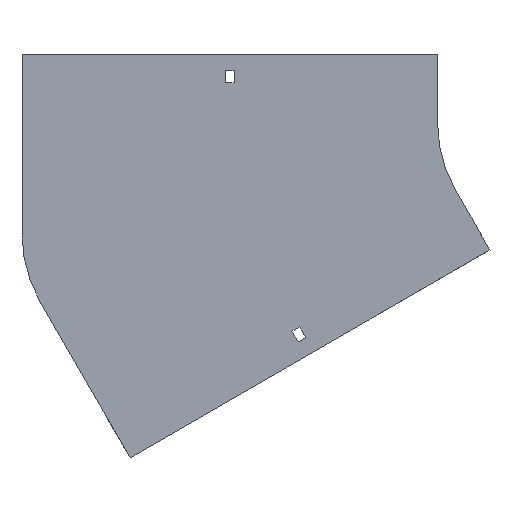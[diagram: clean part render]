
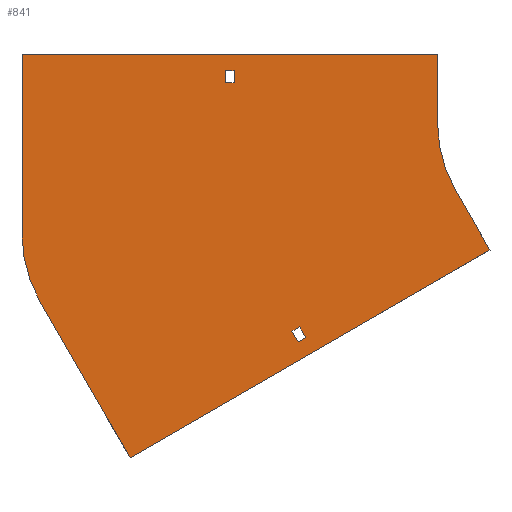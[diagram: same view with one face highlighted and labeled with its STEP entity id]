
A CAD part, front view. The second image highlights one B-rep face of the part: STEP entity #841.
In plain terms, the highlighted planar face has unit normal (0, -1, 0).
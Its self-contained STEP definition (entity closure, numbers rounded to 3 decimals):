
#8 = DIRECTION ( 'NONE',  ( 0., 1., 0. ) ) ;
#13 = DIRECTION ( 'NONE',  ( 0., 0., -1. ) ) ;
#57 = DIRECTION ( 'NONE',  ( 0., 0., -1. ) ) ;
#69 = VERTEX_POINT ( 'NONE', #1816 ) ;
#96 = VECTOR ( 'NONE', #1016, 1000. ) ;
#99 = VECTOR ( 'NONE', #1073, 1000. ) ;
#103 = DIRECTION ( 'NONE',  ( 0.866, 0., 0.5 ) ) ;
#123 = CARTESIAN_POINT ( 'NONE',  ( -255.25, 0., 38. ) ) ;
#131 = CARTESIAN_POINT ( 'NONE',  ( -206.553, 0., -152.74 ) ) ;
#139 = DIRECTION ( 'NONE',  ( -1., 0., 0. ) ) ;
#149 = CARTESIAN_POINT ( 'NONE',  ( -100., 0., 0. ) ) ;
#153 = AXIS2_PLACEMENT_3D ( 'NONE', #1357, #8, #602 ) ;
#165 = CARTESIAN_POINT ( 'NONE',  ( -404., 0., -81.457 ) ) ;
#197 = VERTEX_POINT ( 'NONE', #1261 ) ;
#230 = EDGE_CURVE ( 'NONE', #1905, #1359, #1630, .T. ) ;
#238 = EDGE_CURVE ( 'NONE', #1427, #1677, #1786, .T. ) ;
#245 = EDGE_CURVE ( 'NONE', #795, #1905, #1761, .T. ) ;
#259 = VECTOR ( 'NONE', #1651, 1000. ) ;
#262 = CARTESIAN_POINT ( 'NONE',  ( -248.75, 0., 38. ) ) ;
#273 = VERTEX_POINT ( 'NONE', #1466 ) ;
#303 = VERTEX_POINT ( 'NONE', #262 ) ;
#310 = VERTEX_POINT ( 'NONE', #123 ) ;
#316 = DIRECTION ( 'NONE',  ( -0.5, 0., 0.866 ) ) ;
#342 = VECTOR ( 'NONE', #386, 1000. ) ;
#352 = ORIENTED_EDGE ( 'NONE', *, *, #812, .T. ) ;
#360 = CARTESIAN_POINT ( 'NONE',  ( -61.603, 0., -93.301 ) ) ;
#366 = EDGE_CURVE ( 'NONE', #1569, #1427, #1798, .T. ) ;
#370 = ORIENTED_EDGE ( 'NONE', *, *, #1749, .F. ) ;
#386 = DIRECTION ( 'NONE',  ( 0., 0., -1. ) ) ;
#423 = ORIENTED_EDGE ( 'NONE', *, *, #836, .T. ) ;
#452 = CARTESIAN_POINT ( 'NONE',  ( -324.874, 0., -245.301 ) ) ;
#461 = CIRCLE ( 'NONE', #613, 100. ) ;
#475 = LINE ( 'NONE', #165, #99 ) ;
#499 = VERTEX_POINT ( 'NONE', #986 ) ;
#509 = EDGE_CURVE ( 'NONE', #303, #499, #1381, .T. ) ;
#514 = CARTESIAN_POINT ( 'NONE',  ( -206.553, 0., -152.74 ) ) ;
#531 = VERTEX_POINT ( 'NONE', #1102 ) ;
#539 = ORIENTED_EDGE ( 'NONE', *, *, #873, .F. ) ;
#555 = CARTESIAN_POINT ( 'NONE',  ( -100., 0., 50. ) ) ;
#561 = DIRECTION ( 'NONE',  ( 0., 0., -1. ) ) ;
#602 = DIRECTION ( 'NONE',  ( 0., 0., 1. ) ) ;
#613 = AXIS2_PLACEMENT_3D ( 'NONE', #697, #962, #57 ) ;
#617 = CARTESIAN_POINT ( 'NONE',  ( -202.053, 0., -160.534 ) ) ;
#618 = CARTESIAN_POINT ( 'NONE',  ( -255.25, 0., 29. ) ) ;
#626 = VECTOR ( 'NONE', #1049, 1000. ) ;
#666 = ORIENTED_EDGE ( 'NONE', *, *, #1457, .F. ) ;
#667 = LINE ( 'NONE', #1082, #1415 ) ;
#689 = CIRCLE ( 'NONE', #153, 100. ) ;
#697 = CARTESIAN_POINT ( 'NONE',  ( 0., 0., 0. ) ) ;
#719 = EDGE_CURVE ( 'NONE', #310, #303, #877, .T. ) ;
#746 = CARTESIAN_POINT ( 'NONE',  ( -86.603, 0., -50. ) ) ;
#778 = LINE ( 'NONE', #1219, #1927 ) ;
#795 = VERTEX_POINT ( 'NONE', #1520 ) ;
#810 = CARTESIAN_POINT ( 'NONE',  ( -200.924, 0., -149.49 ) ) ;
#812 = EDGE_CURVE ( 'NONE', #531, #310, #1376, .T. ) ;
#813 = VECTOR ( 'NONE', #1919, 1000. ) ;
#819 = VECTOR ( 'NONE', #1501, 1000. ) ;
#836 = EDGE_CURVE ( 'NONE', #499, #531, #778, .T. ) ;
#840 = VERTEX_POINT ( 'NONE', #149 ) ;
#841 = ADVANCED_FACE ( 'NONE', ( #1383, #1822, #1035 ), #1671, .T. ) ;
#858 = CARTESIAN_POINT ( 'NONE',  ( -100., 0., 50. ) ) ;
#861 = CARTESIAN_POINT ( 'NONE',  ( -86.603, 0., -50. ) ) ;
#873 = EDGE_CURVE ( 'NONE', #69, #197, #475, .T. ) ;
#877 = LINE ( 'NONE', #1444, #944 ) ;
#883 = ORIENTED_EDGE ( 'NONE', *, *, #903, .F. ) ;
#884 = AXIS2_PLACEMENT_3D ( 'NONE', #1061, #1493, #13 ) ;
#903 = EDGE_CURVE ( 'NONE', #1533, #69, #689, .T. ) ;
#909 = EDGE_CURVE ( 'NONE', #197, #1880, #667, .T. ) ;
#934 = VECTOR ( 'NONE', #1417, 1000. ) ;
#936 = ORIENTED_EDGE ( 'NONE', *, *, #230, .F. ) ;
#944 = VECTOR ( 'NONE', #1145, 1000. ) ;
#962 = DIRECTION ( 'NONE',  ( 0., -1., 0. ) ) ;
#986 = CARTESIAN_POINT ( 'NONE',  ( -248.75, 0., 29. ) ) ;
#1001 = ORIENTED_EDGE ( 'NONE', *, *, #1095, .F. ) ;
#1016 = DIRECTION ( 'NONE',  ( -0.866, 0., -0.5 ) ) ;
#1035 = FACE_BOUND ( 'NONE', #1363, .T. ) ;
#1049 = DIRECTION ( 'NONE',  ( 0.5, 0., -0.866 ) ) ;
#1055 = ORIENTED_EDGE ( 'NONE', *, *, #909, .F. ) ;
#1061 = CARTESIAN_POINT ( 'NONE',  ( 0., 0., 0. ) ) ;
#1073 = DIRECTION ( 'NONE',  ( 0., 0., 1. ) ) ;
#1074 = LINE ( 'NONE', #1823, #1719 ) ;
#1082 = CARTESIAN_POINT ( 'NONE',  ( -404., 0., 50. ) ) ;
#1095 = EDGE_CURVE ( 'NONE', #1359, #273, #1907, .T. ) ;
#1102 = CARTESIAN_POINT ( 'NONE',  ( -255.25, 0., 29. ) ) ;
#1143 = EDGE_CURVE ( 'NONE', #1880, #840, #1609, .T. ) ;
#1145 = DIRECTION ( 'NONE',  ( 1., 0., 0. ) ) ;
#1219 = CARTESIAN_POINT ( 'NONE',  ( -255.25, 0., 29. ) ) ;
#1234 = ORIENTED_EDGE ( 'NONE', *, *, #245, .F. ) ;
#1261 = CARTESIAN_POINT ( 'NONE',  ( -404., 0., 50. ) ) ;
#1307 = ORIENTED_EDGE ( 'NONE', *, *, #366, .F. ) ;
#1312 = VECTOR ( 'NONE', #561, 1000. ) ;
#1357 = CARTESIAN_POINT ( 'NONE',  ( -304., 0., -81.457 ) ) ;
#1359 = VERTEX_POINT ( 'NONE', #617 ) ;
#1363 = EDGE_LOOP ( 'NONE', ( #1001, #936, #1234, #666 ) ) ;
#1376 = LINE ( 'NONE', #618, #819 ) ;
#1381 = LINE ( 'NONE', #1403, #342 ) ;
#1383 = FACE_BOUND ( 'NONE', #1550, .T. ) ;
#1397 = EDGE_CURVE ( 'NONE', #840, #1569, #461, .T. ) ;
#1403 = CARTESIAN_POINT ( 'NONE',  ( -248.75, 0., 29. ) ) ;
#1415 = VECTOR ( 'NONE', #1731, 1000. ) ;
#1417 = DIRECTION ( 'NONE',  ( -0.5, 0., 0.866 ) ) ;
#1427 = VERTEX_POINT ( 'NONE', #360 ) ;
#1444 = CARTESIAN_POINT ( 'NONE',  ( -255.25, 0., 38. ) ) ;
#1452 = CARTESIAN_POINT ( 'NONE',  ( -202.053, 0., -160.534 ) ) ;
#1457 = EDGE_CURVE ( 'NONE', #273, #795, #1739, .T. ) ;
#1466 = CARTESIAN_POINT ( 'NONE',  ( -196.424, 0., -157.284 ) ) ;
#1493 = DIRECTION ( 'NONE',  ( 0., -1., 0. ) ) ;
#1501 = DIRECTION ( 'NONE',  ( 0., 0., 1. ) ) ;
#1520 = CARTESIAN_POINT ( 'NONE',  ( -200.924, 0., -149.49 ) ) ;
#1533 = VERTEX_POINT ( 'NONE', #1613 ) ;
#1550 = EDGE_LOOP ( 'NONE', ( #352, #1697, #1932, #423 ) ) ;
#1569 = VERTEX_POINT ( 'NONE', #861 ) ;
#1591 = EDGE_LOOP ( 'NONE', ( #1055, #539, #883, #370, #1714, #1307, #1764, #1707 ) ) ;
#1609 = LINE ( 'NONE', #858, #1312 ) ;
#1613 = CARTESIAN_POINT ( 'NONE',  ( -390.603, 0., -131.457 ) ) ;
#1620 = CARTESIAN_POINT ( 'NONE',  ( -61.603, 0., -93.301 ) ) ;
#1630 = LINE ( 'NONE', #1795, #813 ) ;
#1651 = DIRECTION ( 'NONE',  ( -0.866, 0., -0.5 ) ) ;
#1671 = PLANE ( 'NONE',  #884 ) ;
#1677 = VERTEX_POINT ( 'NONE', #452 ) ;
#1697 = ORIENTED_EDGE ( 'NONE', *, *, #719, .T. ) ;
#1707 = ORIENTED_EDGE ( 'NONE', *, *, #1143, .F. ) ;
#1714 = ORIENTED_EDGE ( 'NONE', *, *, #238, .F. ) ;
#1719 = VECTOR ( 'NONE', #316, 1000. ) ;
#1724 = VECTOR ( 'NONE', #103, 1000. ) ;
#1731 = DIRECTION ( 'NONE',  ( 1., 0., 0. ) ) ;
#1739 = LINE ( 'NONE', #810, #934 ) ;
#1749 = EDGE_CURVE ( 'NONE', #1677, #1533, #1074, .T. ) ;
#1761 = LINE ( 'NONE', #131, #96 ) ;
#1764 = ORIENTED_EDGE ( 'NONE', *, *, #1397, .F. ) ;
#1786 = LINE ( 'NONE', #1620, #259 ) ;
#1795 = CARTESIAN_POINT ( 'NONE',  ( -206.553, 0., -152.74 ) ) ;
#1798 = LINE ( 'NONE', #746, #626 ) ;
#1816 = CARTESIAN_POINT ( 'NONE',  ( -404., 0., -81.457 ) ) ;
#1822 = FACE_OUTER_BOUND ( 'NONE', #1591, .T. ) ;
#1823 = CARTESIAN_POINT ( 'NONE',  ( -324.874, 0., -245.301 ) ) ;
#1880 = VERTEX_POINT ( 'NONE', #555 ) ;
#1905 = VERTEX_POINT ( 'NONE', #514 ) ;
#1907 = LINE ( 'NONE', #1452, #1724 ) ;
#1919 = DIRECTION ( 'NONE',  ( 0.5, 0., -0.866 ) ) ;
#1927 = VECTOR ( 'NONE', #139, 1000. ) ;
#1932 = ORIENTED_EDGE ( 'NONE', *, *, #509, .T. ) ;
